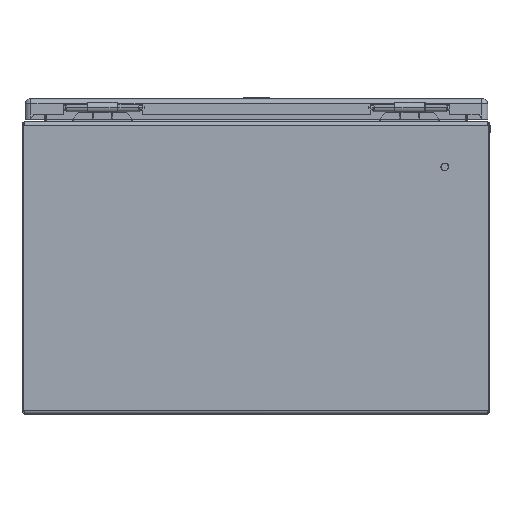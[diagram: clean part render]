
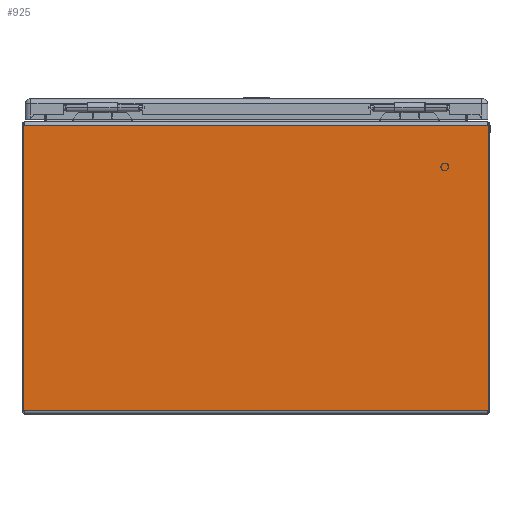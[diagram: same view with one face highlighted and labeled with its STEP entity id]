
A CAD part, left-side view. The second image highlights one B-rep face of the part: STEP entity #925.
In plain terms, the highlighted planar face has unit normal (-1, 0, 0).
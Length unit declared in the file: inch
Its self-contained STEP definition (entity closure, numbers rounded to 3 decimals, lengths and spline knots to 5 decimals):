
#925 = ADVANCED_FACE ( 'NONE', ( #33861 ), #2039, .F. ) ;
#2011 = DIRECTION ( 'NONE',  ( 0., 0., -1. ) ) ;
#2012 = DIRECTION ( 'NONE',  ( 1., 0., 0. ) ) ;
#2038 = CARTESIAN_POINT ( 'NONE',  ( -8., 8., 0.047 ) ) ;
#2039 = PLANE ( 'NONE',  #12272 ) ;
#12272 = AXIS2_PLACEMENT_3D ( 'NONE', #2038, #2012, #2011 ) ;
#16110 = EDGE_LOOP ( 'NONE', ( #16518, #16517, #16516, #16515 ) ) ;
#16515 = ORIENTED_EDGE ( 'NONE', *, *, #19350, .T. ) ;
#16516 = ORIENTED_EDGE ( 'NONE', *, *, #19353, .F. ) ;
#16517 = ORIENTED_EDGE ( 'NONE', *, *, #19359, .F. ) ;
#16518 = ORIENTED_EDGE ( 'NONE', *, *, #19346, .T. ) ;
#19346 = EDGE_CURVE ( 'NONE', #35413, #35396, #30843, .T. ) ;
#19350 = EDGE_CURVE ( 'NONE', #35266, #35413, #30850, .T. ) ;
#19353 = EDGE_CURVE ( 'NONE', #35266, #35143, #30856, .T. ) ;
#19359 = EDGE_CURVE ( 'NONE', #35143, #35396, #30862, .T. ) ;
#20393 = CARTESIAN_POINT ( 'NONE',  ( -8., -7.95229, 0.125 ) ) ;
#20523 = CARTESIAN_POINT ( 'NONE',  ( -8., 7.95229, 9.875 ) ) ;
#20540 = CARTESIAN_POINT ( 'NONE',  ( -8., -7.95229, 9.875 ) ) ;
#24424 = CARTESIAN_POINT ( 'NONE',  ( -8., 7.95229, 0.125 ) ) ;
#30843 = LINE ( 'NONE', #31594, #30846 ) ;
#30846 = VECTOR ( 'NONE', #31592, 39.37008 ) ;
#30850 = LINE ( 'NONE', #31555, #30851 ) ;
#30851 = VECTOR ( 'NONE', #31553, 39.37008 ) ;
#30856 = LINE ( 'NONE', #31537, #30857 ) ;
#30857 = VECTOR ( 'NONE', #31535, 39.37008 ) ;
#30859 = VECTOR ( 'NONE', #31455, 39.37008 ) ;
#30862 = LINE ( 'NONE', #31456, #30859 ) ;
#31455 = DIRECTION ( 'NONE',  ( 0., 0., 1. ) ) ;
#31456 = CARTESIAN_POINT ( 'NONE',  ( -8., 7.95229, 0.047 ) ) ;
#31535 = DIRECTION ( 'NONE',  ( 0., 1., 0. ) ) ;
#31537 = CARTESIAN_POINT ( 'NONE',  ( -8., 8., 0.125 ) ) ;
#31553 = DIRECTION ( 'NONE',  ( 0., 0., 1. ) ) ;
#31555 = CARTESIAN_POINT ( 'NONE',  ( -8., -7.95229, 0.047 ) ) ;
#31592 = DIRECTION ( 'NONE',  ( 0., 1., 0. ) ) ;
#31594 = CARTESIAN_POINT ( 'NONE',  ( -8., -7.95229, 9.875 ) ) ;
#33861 = FACE_OUTER_BOUND ( 'NONE', #16110, .T. ) ;
#35143 = VERTEX_POINT ( 'NONE', #24424 ) ;
#35266 = VERTEX_POINT ( 'NONE', #20393 ) ;
#35396 = VERTEX_POINT ( 'NONE', #20523 ) ;
#35413 = VERTEX_POINT ( 'NONE', #20540 ) ;
